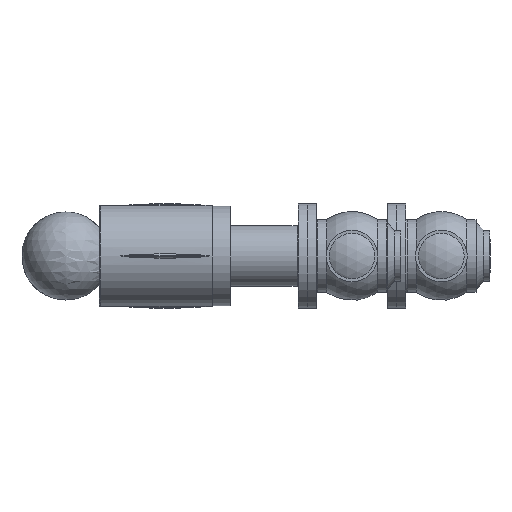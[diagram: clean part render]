
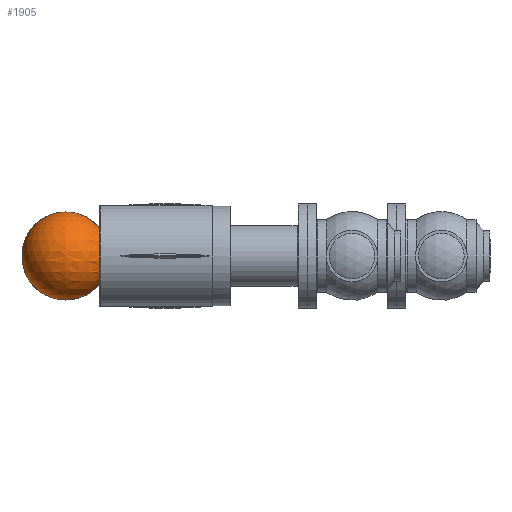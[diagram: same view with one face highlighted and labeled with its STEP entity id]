
A CAD part, left-side view. The second image highlights one B-rep face of the part: STEP entity #1905.
In plain terms, the highlighted spherical face has radius 72.5 mm.
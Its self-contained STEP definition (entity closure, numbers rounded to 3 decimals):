
#123=SPHERICAL_SURFACE('',#2211,72.5);
#224=FACE_BOUND('',#520,.T.);
#404=FACE_OUTER_BOUND('',#519,.T.);
#519=EDGE_LOOP('',(#1447,#1448));
#520=EDGE_LOOP('',(#1449));
#657=CIRCLE('',#2212,72.5);
#658=CIRCLE('',#2213,46.648);
#869=VERTEX_POINT('',#3667);
#870=VERTEX_POINT('',#3668);
#871=VERTEX_POINT('',#3670);
#1094=EDGE_CURVE('',#869,#870,#657,.T.);
#1095=EDGE_CURVE('',#871,#871,#658,.T.);
#1447=ORIENTED_EDGE('',*,*,#1094,.T.);
#1448=ORIENTED_EDGE('',*,*,#1094,.F.);
#1449=ORIENTED_EDGE('',*,*,#1095,.F.);
#1905=ADVANCED_FACE('',(#404,#224),#123,.T.);
#2211=AXIS2_PLACEMENT_3D('',#3666,#2632,#2633);
#2212=AXIS2_PLACEMENT_3D('',#3669,#2634,#2635);
#2213=AXIS2_PLACEMENT_3D('',#3671,#2636,#2637);
#2632=DIRECTION('center_axis',(0.,0.,1.));
#2633=DIRECTION('ref_axis',(1.,0.,0.));
#2634=DIRECTION('center_axis',(0.,-1.,0.));
#2635=DIRECTION('ref_axis',(-1.,0.,0.));
#2636=DIRECTION('center_axis',(0.,-1.,0.));
#2637=DIRECTION('ref_axis',(1.,0.,0.));
#3666=CARTESIAN_POINT('Origin',(150.,266.5,0.));
#3667=CARTESIAN_POINT('',(150.,266.5,72.5));
#3668=CARTESIAN_POINT('',(150.,266.5,-72.5));
#3669=CARTESIAN_POINT('Origin',(150.,266.5,0.));
#3670=CARTESIAN_POINT('',(196.648,211.,0.));
#3671=CARTESIAN_POINT('Origin',(150.,211.,0.));
